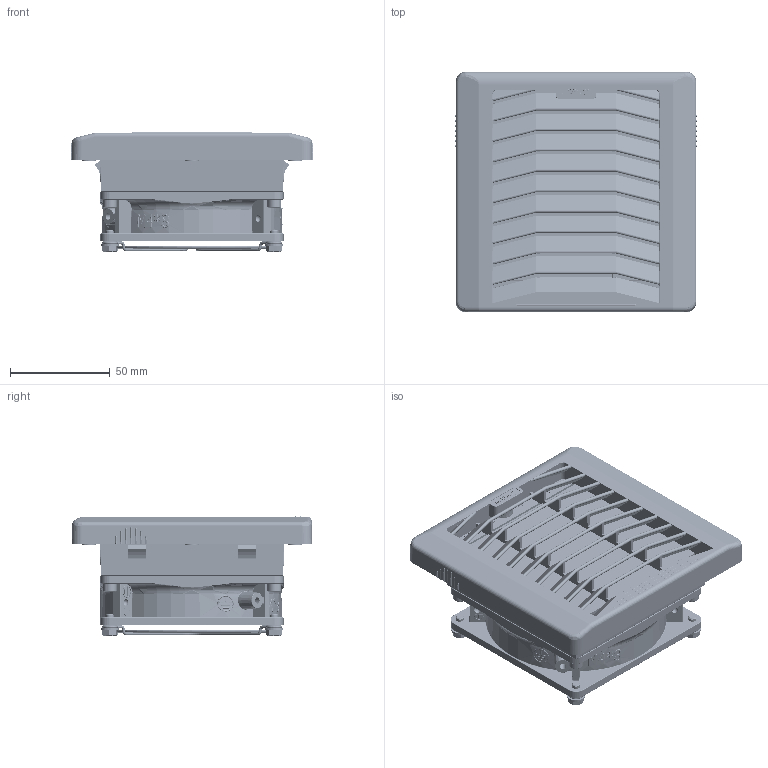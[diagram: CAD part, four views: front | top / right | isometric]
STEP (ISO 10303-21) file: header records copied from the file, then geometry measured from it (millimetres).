
FILE_DESCRIPTION(/* description */ (''),/* implementation_level */ '2;1');
FILE_NAME(/* name */ 'D:\Котлубовский\Впускные решётки\KIPVENT-100.01.230\KIPVENT-100.01.230 Решётка в сборе.stp',/* time_stamp */ '2022-03-28T20:06:00+07:00',/* author */ ('YURY_'),/* organization */ (''),/* preprocessor_version */ 'ST-DEVELOPER v17.2',/* originating_system */ 'Autodesk Inventor 2019',/* authorisation */ '');
FILE_SCHEMA (('AUTOMOTIVE_DESIGN { 1 0 10303 214 3 1 1 }'));
Products named in the file (18): KIPVENT-100.01.230 Решётка 
в сборе; KIPVENT-100.01.300 Выпускная решётка 
в сборе; KIPVENT-100.01.300 Корпус; KIPVENT-100.01.300 Крышка; KIPVENT-100.01.300 Фильтр; KIPVENT-100.01.300 Заглушка; VENT-9225.220VAC.7MSHB.C50 Вентилятор 
в сборе; Корпус VENT-9225.220VAC.7MS
HB.C50; Крыльчатка VENT
-9225.220VAC.7MSHB.C50; Планка штекера; Провод VENT-9225.220VAC.7MS
HB.C50; Короб VENT-9225.220VAC.7MSHB.C
50; Винт 2.M3-6gx10 ГОСТ 
17475-80; Табличка VENT-9225.22
0VAC.7MSHB.C50; VENT-92; Винт M4-6gx10 ГОСТ 
11738-84; Болт M4-6gx8 ГОСТ 
7805-70; Шайба 4 ГОСТ 
11371-78
Assembly tree (27 placements, depth 3):
  KIPVENT-100.01.230 Решётка 
в сборе
    KIPVENT-100.01.300 Выпускная решётка 
в сборе
      KIPVENT-100.01.300 Корпус
      KIPVENT-100.01.300 Крышка
      KIPVENT-100.01.300 Фильтр
      KIPVENT-100.01.300 Заглушка
    VENT-9225.220VAC.7MSHB.C50 Вентилятор 
в сборе
      Корпус VENT-9225.220VAC.7MS
HB.C50
      Крыльчатка VENT
-9225.220VAC.7MSHB.C50
      Планка штекера  x2
      Провод VENT-9225.220VAC.7MS
HB.C50
      Короб VENT-9225.220VAC.7MSHB.C
50
      Винт 2.M3-6gx10 ГОСТ 
17475-80
      Табличка VENT-9225.22
0VAC.7MSHB.C50
    VENT-92
    Винт M4-6gx10 ГОСТ 
11738-84  x4
    Болт M4-6gx8 ГОСТ 
7805-70  x4
    Шайба 4 ГОСТ 
11371-78  x4
Bounding box: 121.8 x 120.7 x 59.8 mm (x, y, z)
Volume: 295692 mm3; surface area: 181891.8 mm2
Topology: 33 solids, 33 shells, 9721 faces, 24325 edges, 15062 vertices
Faces by surface type: bspline 3657, plane 3548, cylinder 1425, torus 489, sphere 358, cone 244
Full cylindrical faces by diameter (mm): 0.01 x1, 1 x2, 1.5 x23, 2.399 x1, 2.5 x1, 3 x5, 3.2 x2, 3.242 x12, 4 x8, 4.1 x8, 4.3 x4, 5.2 x3, 5.6 x1, 5.8 x4, 6 x2, 7 x4, 9 x4, 43 x1, 56.7 x1, 58.3 x1, 60 x1
Entity records: 350471 total; most frequent: CARTESIAN_POINT 142135, ORIENTED_EDGE 47694, DIRECTION 34177, EDGE_CURVE 23847, VERTEX_POINT 14838, LINE 11573, VECTOR 11573, AXIS2_PLACEMENT_3D 11302
